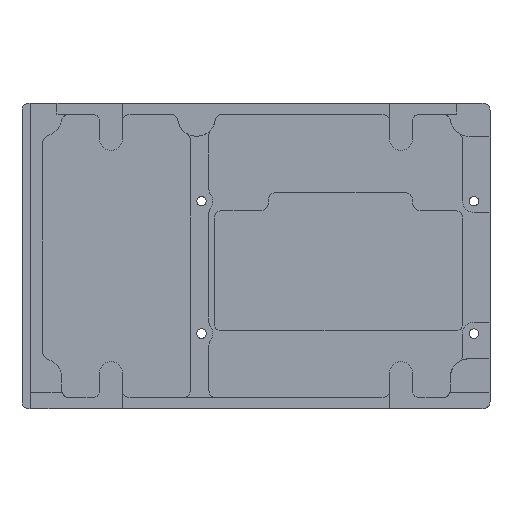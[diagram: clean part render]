
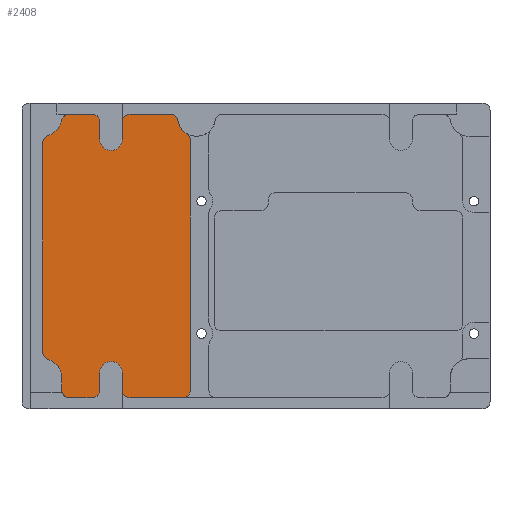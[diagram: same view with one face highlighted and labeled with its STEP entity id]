
A CAD part, top view. The second image highlights one B-rep face of the part: STEP entity #2408.
In plain terms, the highlighted planar face has unit normal (0, 0, 1).
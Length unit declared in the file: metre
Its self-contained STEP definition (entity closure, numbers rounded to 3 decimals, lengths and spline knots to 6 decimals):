
#128=CIRCLE('',#2597,0.002);
#129=CIRCLE('',#2598,0.002);
#130=CIRCLE('',#2599,0.005);
#131=CIRCLE('',#2600,0.002);
#132=CIRCLE('',#2601,0.002);
#133=CIRCLE('',#2602,0.003);
#134=CIRCLE('',#2603,0.002);
#135=CIRCLE('',#2604,0.002);
#136=CIRCLE('',#2605,0.005);
#137=CIRCLE('',#2606,0.002);
#138=CIRCLE('',#2607,0.002);
#139=CIRCLE('',#2608,0.005);
#140=CIRCLE('',#2609,0.002);
#141=CIRCLE('',#2610,0.002);
#142=CIRCLE('',#2611,0.003);
#143=CIRCLE('',#2612,0.002);
#355=ORIENTED_EDGE('',*,*,#1073,.F.);
#356=ORIENTED_EDGE('',*,*,#1074,.T.);
#357=ORIENTED_EDGE('',*,*,#1075,.T.);
#358=ORIENTED_EDGE('',*,*,#1076,.T.);
#359=ORIENTED_EDGE('',*,*,#1077,.F.);
#360=ORIENTED_EDGE('',*,*,#1078,.T.);
#361=ORIENTED_EDGE('',*,*,#1079,.F.);
#362=ORIENTED_EDGE('',*,*,#1080,.T.);
#363=ORIENTED_EDGE('',*,*,#1081,.F.);
#364=ORIENTED_EDGE('',*,*,#1082,.F.);
#365=ORIENTED_EDGE('',*,*,#1083,.F.);
#366=ORIENTED_EDGE('',*,*,#1084,.T.);
#367=ORIENTED_EDGE('',*,*,#1085,.F.);
#368=ORIENTED_EDGE('',*,*,#1086,.T.);
#369=ORIENTED_EDGE('',*,*,#1087,.F.);
#370=ORIENTED_EDGE('',*,*,#1088,.T.);
#371=ORIENTED_EDGE('',*,*,#1089,.F.);
#372=ORIENTED_EDGE('',*,*,#1090,.T.);
#373=ORIENTED_EDGE('',*,*,#1091,.F.);
#374=ORIENTED_EDGE('',*,*,#1092,.F.);
#375=ORIENTED_EDGE('',*,*,#1093,.T.);
#376=ORIENTED_EDGE('',*,*,#1094,.F.);
#377=ORIENTED_EDGE('',*,*,#1095,.T.);
#378=ORIENTED_EDGE('',*,*,#1033,.F.);
#379=ORIENTED_EDGE('',*,*,#1096,.F.);
#380=ORIENTED_EDGE('',*,*,#1097,.F.);
#381=ORIENTED_EDGE('',*,*,#1098,.T.);
#1033=EDGE_CURVE('',#1393,#1394,#1610,.T.);
#1073=EDGE_CURVE('',#1427,#1428,#1641,.T.);
#1074=EDGE_CURVE('',#1427,#1429,#128,.F.);
#1075=EDGE_CURVE('',#1429,#1430,#1642,.T.);
#1076=EDGE_CURVE('',#1430,#1431,#129,.F.);
#1077=EDGE_CURVE('',#1432,#1431,#130,.T.);
#1078=EDGE_CURVE('',#1432,#1433,#131,.T.);
#1079=EDGE_CURVE('',#1434,#1433,#1643,.T.);
#1080=EDGE_CURVE('',#1434,#1435,#132,.F.);
#1081=EDGE_CURVE('',#1436,#1435,#1644,.T.);
#1082=EDGE_CURVE('',#1437,#1436,#133,.T.);
#1083=EDGE_CURVE('',#1438,#1437,#1645,.T.);
#1084=EDGE_CURVE('',#1438,#1439,#134,.F.);
#1085=EDGE_CURVE('',#1440,#1439,#1646,.T.);
#1086=EDGE_CURVE('',#1440,#1441,#135,.T.);
#1087=EDGE_CURVE('',#1442,#1441,#136,.T.);
#1088=EDGE_CURVE('',#1442,#1443,#137,.F.);
#1089=EDGE_CURVE('',#1444,#1443,#1647,.T.);
#1090=EDGE_CURVE('',#1444,#1445,#138,.F.);
#1091=EDGE_CURVE('',#1446,#1445,#139,.T.);
#1092=EDGE_CURVE('',#1447,#1446,#1648,.T.);
#1093=EDGE_CURVE('',#1447,#1448,#140,.T.);
#1094=EDGE_CURVE('',#1449,#1448,#1649,.T.);
#1095=EDGE_CURVE('',#1449,#1394,#141,.F.);
#1096=EDGE_CURVE('',#1450,#1393,#142,.T.);
#1097=EDGE_CURVE('',#1451,#1450,#1650,.T.);
#1098=EDGE_CURVE('',#1451,#1428,#143,.F.);
#1393=VERTEX_POINT('',#3734);
#1394=VERTEX_POINT('',#3735);
#1427=VERTEX_POINT('',#3817);
#1428=VERTEX_POINT('',#3818);
#1429=VERTEX_POINT('',#3820);
#1430=VERTEX_POINT('',#3822);
#1431=VERTEX_POINT('',#3824);
#1432=VERTEX_POINT('',#3826);
#1433=VERTEX_POINT('',#3828);
#1434=VERTEX_POINT('',#3830);
#1435=VERTEX_POINT('',#3832);
#1436=VERTEX_POINT('',#3834);
#1437=VERTEX_POINT('',#3836);
#1438=VERTEX_POINT('',#3838);
#1439=VERTEX_POINT('',#3840);
#1440=VERTEX_POINT('',#3842);
#1441=VERTEX_POINT('',#3844);
#1442=VERTEX_POINT('',#3846);
#1443=VERTEX_POINT('',#3848);
#1444=VERTEX_POINT('',#3850);
#1445=VERTEX_POINT('',#3852);
#1446=VERTEX_POINT('',#3854);
#1447=VERTEX_POINT('',#3856);
#1448=VERTEX_POINT('',#3858);
#1449=VERTEX_POINT('',#3860);
#1450=VERTEX_POINT('',#3863);
#1451=VERTEX_POINT('',#3865);
#1610=LINE('',#3733,#1836);
#1641=LINE('',#3816,#1867);
#1642=LINE('',#3821,#1868);
#1643=LINE('',#3829,#1869);
#1644=LINE('',#3833,#1870);
#1645=LINE('',#3837,#1871);
#1646=LINE('',#3841,#1872);
#1647=LINE('',#3849,#1873);
#1648=LINE('',#3855,#1874);
#1649=LINE('',#3859,#1875);
#1650=LINE('',#3864,#1876);
#1836=VECTOR('',#2943,1.);
#1867=VECTOR('',#3002,1.);
#1868=VECTOR('',#3005,1.);
#1869=VECTOR('',#3012,1.);
#1870=VECTOR('',#3015,1.);
#1871=VECTOR('',#3018,1.);
#1872=VECTOR('',#3021,1.);
#1873=VECTOR('',#3028,1.);
#1874=VECTOR('',#3033,1.);
#1875=VECTOR('',#3036,1.);
#1876=VECTOR('',#3041,1.);
#2029=EDGE_LOOP('',(#355,#356,#357,#358,#359,#360,#361,#362,#363,#364,#365,
#366,#367,#368,#369,#370,#371,#372,#373,#374,#375,#376,#377,#378,#379,#380,
#381));
#2187=FACE_BOUND('',#2029,.T.);
#2339=PLANE('',#2596);
#2408=ADVANCED_FACE('',(#2187),#2339,.F.);
#2596=AXIS2_PLACEMENT_3D('',#3815,#3000,#3001);
#2597=AXIS2_PLACEMENT_3D('',#3819,#3003,#3004);
#2598=AXIS2_PLACEMENT_3D('',#3823,#3006,#3007);
#2599=AXIS2_PLACEMENT_3D('',#3825,#3008,#3009);
#2600=AXIS2_PLACEMENT_3D('',#3827,#3010,#3011);
#2601=AXIS2_PLACEMENT_3D('',#3831,#3013,#3014);
#2602=AXIS2_PLACEMENT_3D('',#3835,#3016,#3017);
#2603=AXIS2_PLACEMENT_3D('',#3839,#3019,#3020);
#2604=AXIS2_PLACEMENT_3D('',#3843,#3022,#3023);
#2605=AXIS2_PLACEMENT_3D('',#3845,#3024,#3025);
#2606=AXIS2_PLACEMENT_3D('',#3847,#3026,#3027);
#2607=AXIS2_PLACEMENT_3D('',#3851,#3029,#3030);
#2608=AXIS2_PLACEMENT_3D('',#3853,#3031,#3032);
#2609=AXIS2_PLACEMENT_3D('',#3857,#3034,#3035);
#2610=AXIS2_PLACEMENT_3D('',#3861,#3037,#3038);
#2611=AXIS2_PLACEMENT_3D('',#3862,#3039,#3040);
#2612=AXIS2_PLACEMENT_3D('',#3866,#3042,#3043);
#2943=DIRECTION('',(0.,-1.,0.));
#3000=DIRECTION('',(0.,0.,-1.));
#3001=DIRECTION('',(-1.,0.,0.));
#3002=DIRECTION('',(-1.,0.,0.));
#3003=DIRECTION('',(0.,0.,-1.));
#3004=DIRECTION('',(-1.,0.,0.));
#3005=DIRECTION('',(0.,1.,0.));
#3006=DIRECTION('',(0.,0.,-1.));
#3007=DIRECTION('',(-1.,0.,0.));
#3008=DIRECTION('',(0.,0.,1.));
#3009=DIRECTION('',(1.,0.,0.));
#3010=DIRECTION('',(0.,0.,1.));
#3011=DIRECTION('',(-1.,0.,0.));
#3012=DIRECTION('',(1.,0.,0.));
#3013=DIRECTION('',(0.,0.,-1.));
#3014=DIRECTION('',(-1.,0.,0.));
#3015=DIRECTION('',(0.,1.,0.));
#3016=DIRECTION('',(0.,0.,1.));
#3017=DIRECTION('',(1.,0.,0.));
#3018=DIRECTION('',(0.,-1.,0.));
#3019=DIRECTION('',(0.,0.,-1.));
#3020=DIRECTION('',(-1.,0.,0.));
#3021=DIRECTION('',(1.,0.,0.));
#3022=DIRECTION('',(0.,0.,1.));
#3023=DIRECTION('',(-1.,0.,0.));
#3024=DIRECTION('',(0.,0.,1.));
#3025=DIRECTION('',(1.,0.,0.));
#3026=DIRECTION('',(0.,0.,-1.));
#3027=DIRECTION('',(-1.,0.,0.));
#3028=DIRECTION('',(0.,1.,0.));
#3029=DIRECTION('',(0.,0.,-1.));
#3030=DIRECTION('',(-1.,0.,0.));
#3031=DIRECTION('',(0.,0.,1.));
#3032=DIRECTION('',(-1.,0.,0.));
#3033=DIRECTION('',(0.,1.,0.));
#3034=DIRECTION('',(0.,0.,1.));
#3035=DIRECTION('',(-1.,0.,0.));
#3036=DIRECTION('',(-1.,0.,0.));
#3037=DIRECTION('',(0.,0.,-1.));
#3038=DIRECTION('',(-1.,0.,0.));
#3039=DIRECTION('',(0.,0.,1.));
#3040=DIRECTION('',(1.,0.,0.));
#3041=DIRECTION('',(0.,1.,0.));
#3042=DIRECTION('',(0.,0.,-1.));
#3043=DIRECTION('',(-1.,0.,0.));
#3733=CARTESIAN_POINT('',(-0.0413,0.03086,0.002));
#3734=CARTESIAN_POINT('',(-0.0413,-0.03086,0.002));
#3735=CARTESIAN_POINT('',(-0.0413,-0.0355,0.002));
#3815=CARTESIAN_POINT('',(-0.06,-0.0385,0.002));
#3816=CARTESIAN_POINT('',(-0.051325,-0.0375,0.002));
#3817=CARTESIAN_POINT('',(-0.0194,-0.0375,0.002));
#3818=CARTESIAN_POINT('',(-0.0333,-0.0375,0.002));
#3819=CARTESIAN_POINT('',(-0.0194,-0.0355,0.002));
#3820=CARTESIAN_POINT('',(-0.0174,-0.0355,0.002));
#3821=CARTESIAN_POINT('',(-0.0174,0.023222,0.002));
#3822=CARTESIAN_POINT('',(-0.0174,0.030697,0.002));
#3823=CARTESIAN_POINT('',(-0.0194,0.030697,0.002));
#3824=CARTESIAN_POINT('',(-0.01835,0.032399,0.002));
#3825=CARTESIAN_POINT('',(-0.015725,0.036655,0.002));
#3826=CARTESIAN_POINT('',(-0.020656,0.03583,0.002));
#3827=CARTESIAN_POINT('',(-0.022629,0.0355,0.002));
#3828=CARTESIAN_POINT('',(-0.022629,0.0375,0.002));
#3829=CARTESIAN_POINT('',(0.051325,0.0375,0.002));
#3830=CARTESIAN_POINT('',(-0.0333,0.0375,0.002));
#3831=CARTESIAN_POINT('',(-0.0333,0.0355,0.002));
#3832=CARTESIAN_POINT('',(-0.0353,0.0355,0.002));
#3833=CARTESIAN_POINT('',(-0.0353,0.0375,0.002));
#3834=CARTESIAN_POINT('',(-0.0353,0.03086,0.002));
#3835=CARTESIAN_POINT('',(-0.0383,0.03086,0.002));
#3836=CARTESIAN_POINT('',(-0.0413,0.03086,0.002));
#3837=CARTESIAN_POINT('',(-0.0413,0.03086,0.002));
#3838=CARTESIAN_POINT('',(-0.0413,0.0355,0.002));
#3839=CARTESIAN_POINT('',(-0.0433,0.0355,0.002));
#3840=CARTESIAN_POINT('',(-0.0433,0.0375,0.002));
#3841=CARTESIAN_POINT('',(0.051325,0.0375,0.002));
#3842=CARTESIAN_POINT('',(-0.049421,0.0375,0.002));
#3843=CARTESIAN_POINT('',(-0.049421,0.0355,0.002));
#3844=CARTESIAN_POINT('',(-0.051394,0.03583,0.002));
#3845=CARTESIAN_POINT('',(-0.056325,0.036655,0.002));
#3846=CARTESIAN_POINT('',(-0.054896,0.031863,0.002));
#3847=CARTESIAN_POINT('',(-0.054325,0.029947,0.002));
#3848=CARTESIAN_POINT('',(-0.056325,0.029947,0.002));
#3849=CARTESIAN_POINT('',(-0.056325,0.00224,0.002));
#3850=CARTESIAN_POINT('',(-0.056325,-0.025467,0.002));
#3851=CARTESIAN_POINT('',(-0.054325,-0.025467,0.002));
#3852=CARTESIAN_POINT('',(-0.054896,-0.027383,0.002));
#3853=CARTESIAN_POINT('',(-0.056325,-0.032175,0.002));
#3854=CARTESIAN_POINT('',(-0.051325,-0.032175,0.002));
#3855=CARTESIAN_POINT('',(-0.051325,-0.032175,0.002));
#3856=CARTESIAN_POINT('',(-0.051325,-0.0355,0.002));
#3857=CARTESIAN_POINT('',(-0.049325,-0.0355,0.002));
#3858=CARTESIAN_POINT('',(-0.049325,-0.0375,0.002));
#3859=CARTESIAN_POINT('',(-0.051325,-0.0375,0.002));
#3860=CARTESIAN_POINT('',(-0.0433,-0.0375,0.002));
#3861=CARTESIAN_POINT('',(-0.0433,-0.0355,0.002));
#3862=CARTESIAN_POINT('',(-0.0383,-0.03086,0.002));
#3863=CARTESIAN_POINT('',(-0.0353,-0.03086,0.002));
#3864=CARTESIAN_POINT('',(-0.0353,0.0375,0.002));
#3865=CARTESIAN_POINT('',(-0.0353,-0.0355,0.002));
#3866=CARTESIAN_POINT('',(-0.0333,-0.0355,0.002));
